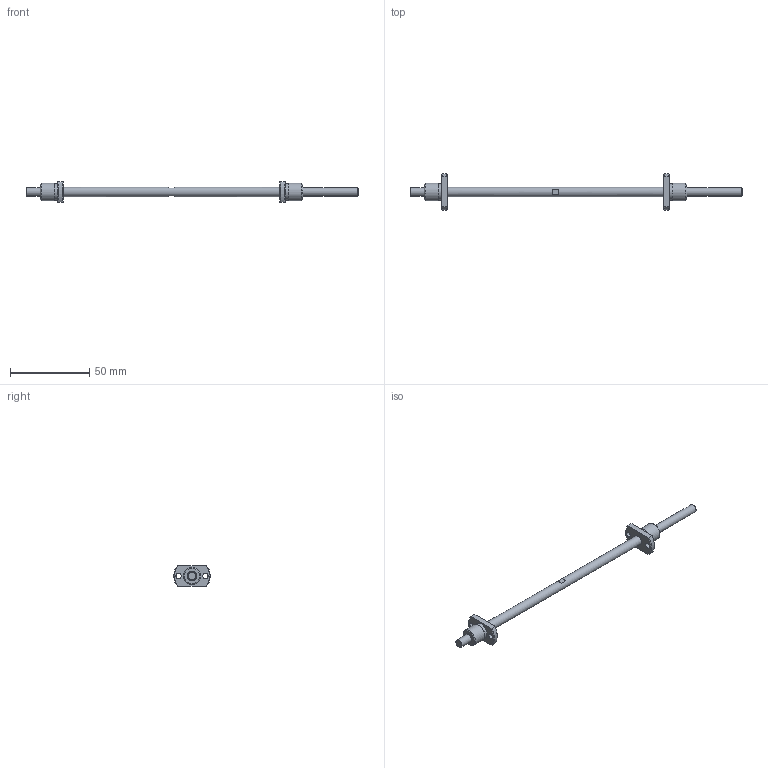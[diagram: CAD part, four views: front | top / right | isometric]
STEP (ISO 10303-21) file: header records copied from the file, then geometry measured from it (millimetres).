
FILE_DESCRIPTION( ( 'STEP AP203' ), '1' );
FILE_NAME( 'e:/temp/worker_101/temp/exporttempdir_1584_1491_KqlJ1/format_0/SD0601-80L80R210C3(0)(0).stp', '2021-10-19T03:18:11', ( 'License CC BY-ND 4.0' ), ( 'CADENAS' ), ' ', 'PARTsolutions', ' ' );
FILE_SCHEMA( ( 'CONFIG_CONTROL_DESIGN' ) );
Length unit declared in the file: millimetre
Products named in the file (3): SD0601-80L80R210C3(0)(0); _SD0601-80L80R210C3_(00)Shaft; _SD0601C3_n
Assembly tree (3 placements, depth 2):
  SD0601-80L80R210C3(0)(0)
    _SD0601-80L80R210C3_(00)Shaft
    _SD0601C3_n  x2
Bounding box: 210 x 22.92 x 13 mm (x, y, z)
Volume: 8728.7 mm3; surface area: 6727.8 mm2
Topology: 3 solids, 3 shells, 53 faces, 116 edges, 76 vertices
Faces by surface type: plane 22, cylinder 17, cone 14
Full cylindrical faces by diameter (mm): 3.4 x4, 5.3 x2, 6 x3, 10.7 x2, 11 x2
Entity records: 988 total; most frequent: CARTESIAN_POINT 165, DIRECTION 160, ORIENTED_EDGE 114, AXIS2_PLACEMENT_3D 72, EDGE_LOOP 60, EDGE_CURVE 57, VERTEX_POINT 45, FACE_OUTER_BOUND 43
